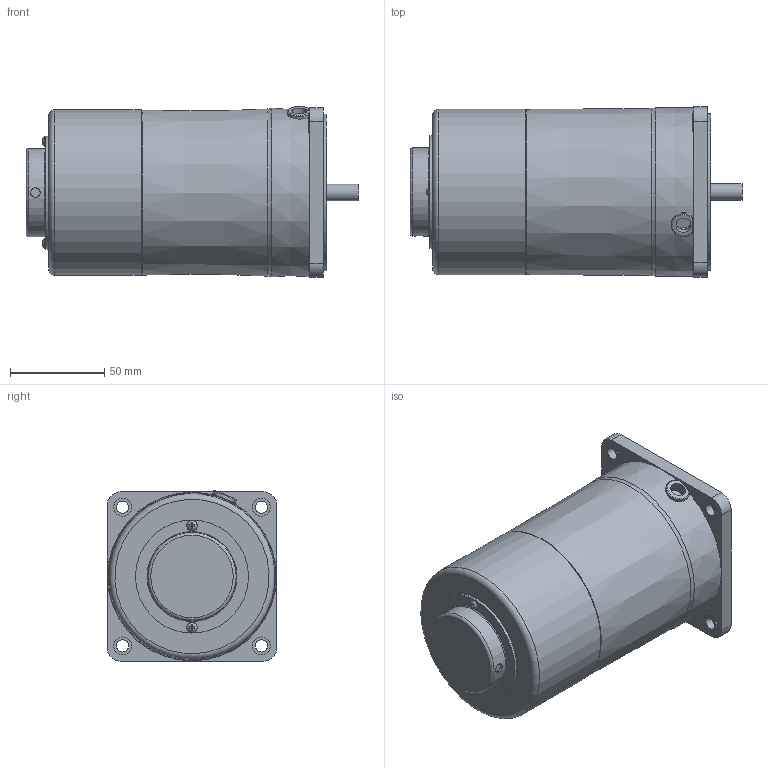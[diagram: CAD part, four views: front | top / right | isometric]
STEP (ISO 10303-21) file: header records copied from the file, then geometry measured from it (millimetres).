
FILE_DESCRIPTION((''),'2;1');
FILE_NAME('D:\STP파일\40W MOTOR\ES TYPE\S9I40G-ES.stp','2013-05-20T16:51:32',('leebh'),(''),'Autodesk Inventor 2011','Autodesk Inventor 2011','');
FILE_SCHEMA(('AUTOMOTIVE_DESIGN { 1 0 10303 214 1 1 1 1 }'));
Length unit declared in the file: millimetre
Products named in the file (1): 부품3
Bounding box: 176 x 90 x 90.6 mm (x, y, z)
Volume: 916674 mm3; surface area: 63626.8 mm2
Topology: 1 solids, 6 shells, 140 faces, 324 edges, 213 vertices
Faces by surface type: plane 83, cylinder 43, torus 10, cone 2, bspline 2
Full cylindrical faces by diameter (mm): 3 x2, 3.5 x2, 5 x1, 5.6 x2, 6.5 x4, 8 x1, 8.7 x1, 9.5 x4, 10 x1, 40 x1, 44.7 x1, 46.7 x1, 47.7 x1, 59.9 x1, 83 x1, 86 x1, 87.8 x1
Entity records: 4041 total; most frequent: CARTESIAN_POINT 953, DIRECTION 618, ORIENTED_EDGE 548, EDGE_CURVE 274, AXIS2_PLACEMENT_3D 236, EDGE_LOOP 213, VERTEX_POINT 203, VECTOR 146
